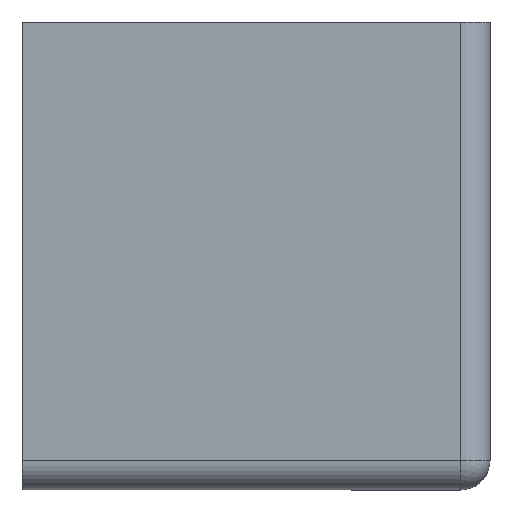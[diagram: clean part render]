
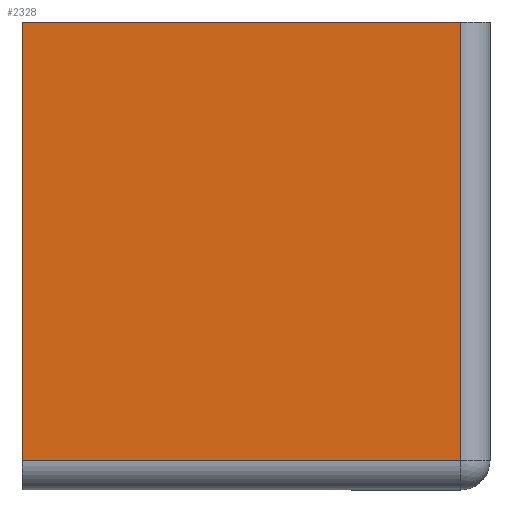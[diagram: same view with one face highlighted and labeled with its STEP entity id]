
A CAD part, front view. The second image highlights one B-rep face of the part: STEP entity #2328.
In plain terms, the highlighted planar face has unit normal (0, -1, 0) as drawn and (1, 0, 0) by its records, which use the part's own axes.
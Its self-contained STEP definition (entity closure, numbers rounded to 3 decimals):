
#38 = VECTOR ( 'NONE', #925, 1000. ) ;
#43 = LINE ( 'NONE', #892, #38 ) ;
#92 = LINE ( 'NONE', #1234, #861 ) ;
#275 = VECTOR ( 'NONE', #1230, 1000. ) ;
#404 = ORIENTED_EDGE ( 'NONE', *, *, #2026, .F. ) ;
#405 = ORIENTED_EDGE ( 'NONE', *, *, #2024, .F. ) ;
#406 = ORIENTED_EDGE ( 'NONE', *, *, #2023, .T. ) ;
#407 = ORIENTED_EDGE ( 'NONE', *, *, #1884, .T. ) ;
#413 = LINE ( 'NONE', #1231, #275 ) ;
#511 = LINE ( 'NONE', #1226, #856 ) ;
#668 = EDGE_LOOP ( 'NONE', ( #407, #406, #405, #404 ) ) ;
#716 = VERTEX_POINT ( 'NONE', #2167 ) ;
#742 = VERTEX_POINT ( 'NONE', #2144 ) ;
#774 = VERTEX_POINT ( 'NONE', #2114 ) ;
#775 = VERTEX_POINT ( 'NONE', #2113 ) ;
#856 = VECTOR ( 'NONE', #1225, 1000. ) ;
#861 = VECTOR ( 'NONE', #1232, 1000. ) ;
#892 = CARTESIAN_POINT ( 'NONE',  ( 39.5, 0., -37. ) ) ;
#925 = DIRECTION ( 'NONE',  ( 0., 1., 0. ) ) ;
#1104 = DIRECTION ( 'NONE',  ( 0., 1., 0. ) ) ;
#1105 = DIRECTION ( 'NONE',  ( 1., 0., 0. ) ) ;
#1107 = PLANE ( 'NONE',  #1839 ) ;
#1118 = CARTESIAN_POINT ( 'NONE',  ( 39.5, 0., -39.5 ) ) ;
#1225 = DIRECTION ( 'NONE',  ( 0., 0., 1. ) ) ;
#1226 = CARTESIAN_POINT ( 'NONE',  ( 39.5, 0., -39.5 ) ) ;
#1230 = DIRECTION ( 'NONE',  ( 0., 1., 0. ) ) ;
#1231 = CARTESIAN_POINT ( 'NONE',  ( 39.5, 0., 0. ) ) ;
#1232 = DIRECTION ( 'NONE',  ( 0., 0., 1. ) ) ;
#1234 = CARTESIAN_POINT ( 'NONE',  ( 39.5, 37., -39.5 ) ) ;
#1680 = FACE_OUTER_BOUND ( 'NONE', #668, .T. ) ;
#1839 = AXIS2_PLACEMENT_3D ( 'NONE', #1118, #1105, #1104 ) ;
#1884 = EDGE_CURVE ( 'NONE', #742, #774, #43, .T. ) ;
#2023 = EDGE_CURVE ( 'NONE', #774, #716, #92, .T. ) ;
#2024 = EDGE_CURVE ( 'NONE', #775, #716, #413, .T. ) ;
#2026 = EDGE_CURVE ( 'NONE', #742, #775, #511, .T. ) ;
#2113 = CARTESIAN_POINT ( 'NONE',  ( 39.5, 0., 0. ) ) ;
#2114 = CARTESIAN_POINT ( 'NONE',  ( 39.5, 37., -37. ) ) ;
#2144 = CARTESIAN_POINT ( 'NONE',  ( 39.5, 0., -37. ) ) ;
#2167 = CARTESIAN_POINT ( 'NONE',  ( 39.5, 37., 0. ) ) ;
#2328 = ADVANCED_FACE ( 'NONE', ( #1680 ), #1107, .T. ) ;
